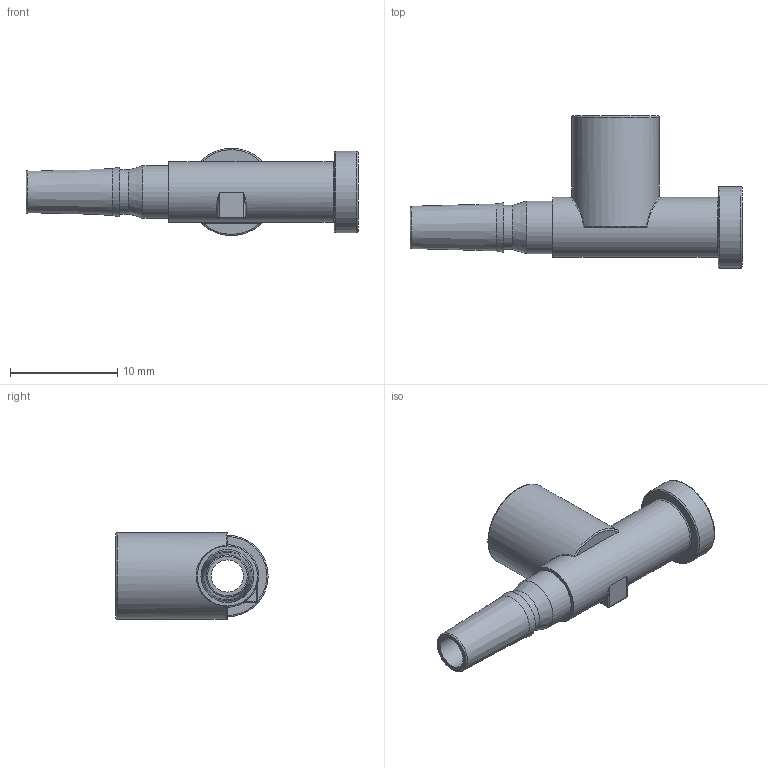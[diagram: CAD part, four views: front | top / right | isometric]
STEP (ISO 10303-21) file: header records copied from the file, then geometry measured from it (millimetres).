
FILE_DESCRIPTION(/* description */ ('LEE CHEK, 558 SERIES, PRESS-IN, T-CONNECTOR'),/* implementation_level */ '2;1');
FILE_NAME(/* name */ '\\ABSOLUTE\SmWork\Vernon\CCPF0300XXXS.stp',/* time_stamp */ '2021-03-23T14:25:07-04:00',/* author */ ('VernonJ'),/* organization */ (''),/* preprocessor_version */ 'ST-DEVELOPER v18',/* originating_system */ 'Autodesk Inventor 2020',/* authorisation */ '');
FILE_SCHEMA (('AUTOMOTIVE_DESIGN { 1 0 10303 214 3 1 1 }'));
Length unit declared in the file: millimetre
Products named in the file (1): CCPF0300XXXS
Bounding box: 30.96 x 14.2 x 8.12 mm (x, y, z)
Volume: 833 mm3; surface area: 1145.9 mm2
Topology: 1 solids, 1 shells, 63 faces, 160 edges, 100 vertices
Faces by surface type: bspline 18, cylinder 15, plane 13, torus 11, cone 4, sphere 2
Full cylindrical faces by diameter (mm): 3 x1, 4.122 x1, 4.926 x1, 5.6 x1, 7.6 x1, 8.125 x1
Entity records: 2537 total; most frequent: CARTESIAN_POINT 1036, ORIENTED_EDGE 312, DIRECTION 301, EDGE_CURVE 156, AXIS2_PLACEMENT_3D 136, VERTEX_POINT 100, CIRCLE 90, EDGE_LOOP 70
